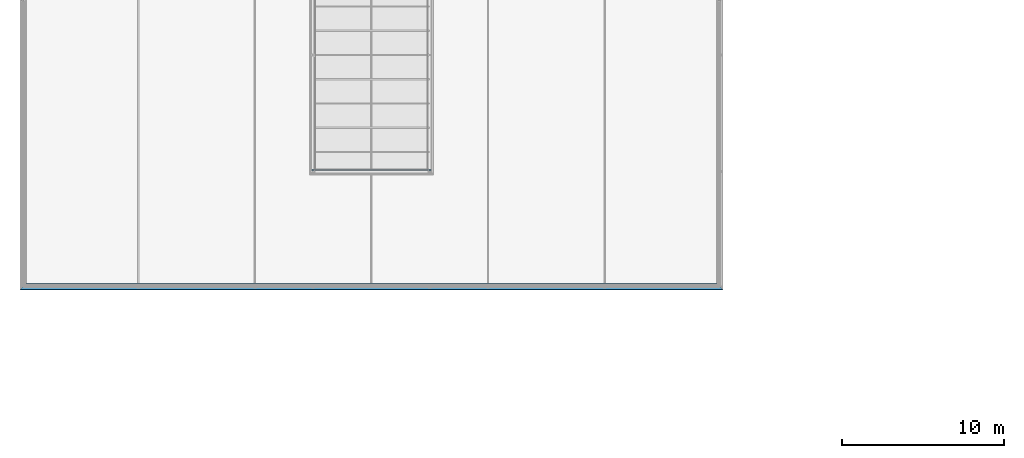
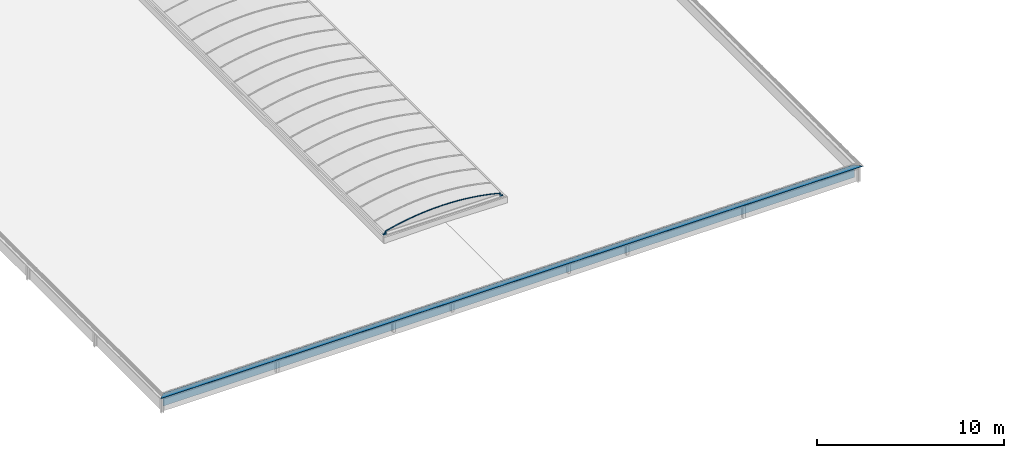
# One storey, part 31 of 81: 2 beams.
"""IFC2X3 building model written with IfcOpenShell, lengths in millimetres."""

from ifc_helpers import new_model, entity, si_unit, converted_unit, derived_unit, money_unit, direction, frame, origin_with_axes, place, context, subcontext, project, spatial, faceted_brep, material, material_list, type_object, element, save


model = new_model("IFC2X3")

# Units and contexts
model_context = context("Model", 3, precision=0.01, world=origin_with_axes(), true_north=direction((0.0, 1.0)))
body_context = subcontext(model_context, "Body", "Model", "MODEL_VIEW")
ifc_project = project(units=[si_unit("LENGTHUNIT", "METRE", prefix="MILLI"), si_unit("AREAUNIT", "SQUARE_METRE"), si_unit("VOLUMEUNIT", "CUBIC_METRE"), converted_unit("PLANEANGLEUNIT", "DEGREE", entity("IfcPlaneAngleMeasure", 0.0174532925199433), si_unit("PLANEANGLEUNIT", "RADIAN"), dimensions=[0, 0, 0, 0, 0, 0, 0]), money_unit("EUR"), converted_unit("TIMEUNIT", "Year", entity("IfcTimeMeasure", 31557600.0), si_unit("TIMEUNIT", "SECOND"), dimensions=[0, 0, 1, 0, 0, 0, 0]), si_unit("MASSUNIT", "GRAM", prefix="KILO"), si_unit("THERMODYNAMICTEMPERATUREUNIT", "DEGREE_CELSIUS"), si_unit("LUMINOUSINTENSITYUNIT", "LUMEN"), si_unit("ENERGYUNIT", "JOULE", prefix="MEGA"), derived_unit("THERMALCONDUCTANCEUNIT", [(si_unit("POWERUNIT", "WATT"), 1), (si_unit("LENGTHUNIT", "METRE"), -1), (si_unit("THERMODYNAMICTEMPERATUREUNIT", "KELVIN"), -1)]), derived_unit("SPECIFICHEATCAPACITYUNIT", [(si_unit("ENERGYUNIT", "JOULE"), 1), (si_unit("MASSUNIT", "GRAM", prefix="KILO"), -1), (si_unit("THERMODYNAMICTEMPERATUREUNIT", "KELVIN"), -1)]), derived_unit("MASSDENSITYUNIT", [(si_unit("MASSUNIT", "GRAM", prefix="KILO"), 1), (si_unit("VOLUMEUNIT", "CUBIC_METRE"), -1)])], contexts=[model_context])

# Site, building, storey
site_placement = place(None, origin_with_axes())
site = spatial("IfcSite", under=ifc_project, at=site_placement, Name="Site", CompositionType="ELEMENT")
building_placement = place(site_placement, origin_with_axes())
building = spatial("IfcBuilding", under=site, at=building_placement, Name="Naam gebouw", CompositionType="ELEMENT")
storey_placement = place(building_placement, frame((0.0, 0.0, 15320.0), z_axis=(0.0, 0.0, 1.0), x_axis=(1.0, 0.0, 0.0)))
storey = spatial("IfcBuildingStorey", under=building, at=storey_placement, Name="01 dak", CompositionType="ELEMENT", Elevation=15320.0)

# Beams
ifc_material_1 = material(Name="Membraan - dampdicht")
ifc_material_2 = material(Name="Metaal - Titanium zink")
ifc_material_list_1 = material_list([ifc_material_1, ifc_material_2])
beam_type_1 = type_object("IfcBeamType", Name="Muurafdekker_210 394 x 841", PredefinedType="BEAM")
beam_1_placement = place(storey_placement, frame((68500.00000000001, 30000.0, 645.0108944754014), z_axis=(0.0, 0.0, 1.0), x_axis=(0.0, 1.0, 0.0)))
element("IfcBeam", 1, at=beam_1_placement, inside=storey, type_object=beam_type_1, material=ifc_material_list_1, Name="dakkap", ObjectType="BEAM", context=body_context, shape_type="Brep", body=[
    faceted_brep([(252.0000000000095, 42948.00000000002, 7.21089447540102), (252.0000000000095, 42948.00000000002, -806.4411900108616), (252.0000000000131, 252.0000000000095, -806.4411900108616), (252.0000000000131, 252.0000000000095, 7.21089447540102), (254.0000000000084, 42946.00000000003, 7.21089447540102), (254.0000000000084, 42946.00000000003, -806.4411900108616), (254.000000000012, 254.0000000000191, -806.4411900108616), (254.000000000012, 254.0000000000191, 7.21089447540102)], [[[0, 1, 2, 3]], [[0, 4, 5, 1]], [[1, 5, 6, 2]], [[3, 2, 6, 7]], [[4, 0, 3, 7]], [[5, 4, 7, 6]]]),
    faceted_brep([(-105.0000000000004, -105.000000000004, 7.30000000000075), (-105.0000000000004, 43305.00000000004, 7.30000000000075), (-104.2673779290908, 43304.26737792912, 5.531844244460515), (-104.2673779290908, -104.2673779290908, 5.531844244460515), (-105.0000000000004, -105.000000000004, 32.31089447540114), (-105.0000000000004, 43305.00000000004, 32.31089447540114), (-104.3675626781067, 43304.36756267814, 33.97288413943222), (-102.7902322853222, 43302.79023228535, 34.79399036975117), (-101.066058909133, 43301.06605890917, 34.35877458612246), (-79.99022734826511, 43279.99022734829, 19.60131845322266), (-79.70672514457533, 43279.70672514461, 19.5109160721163), (270.2494811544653, 42929.75051884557, 17.21089447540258), (271.683422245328, 42928.3165777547, 16.75877458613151), (272.5987127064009, 42927.40128729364, 15.56594483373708), (288.3554032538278, 42911.6445967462, -27.72520665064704), (288.2719411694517, 42911.72805883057, -29.63680266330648), (286.8612220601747, 42913.13877793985, -30.92948856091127), (275.1150643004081, 42924.88493569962, -35.20474035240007), (274.4310240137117, 42925.56897598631, -33.32535511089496), (286.1771817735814, 42913.82281822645, -29.05010331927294), (286.4593255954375, 42913.54067440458, -28.79156613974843), (286.476018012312, 42913.52398198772, -28.40924693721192), (270.7193274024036, 42929.28067259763, 14.88190471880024), (270.5376117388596, 42929.46238826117, 15.11952092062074), (270.2527665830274, 42929.747233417, 15.21087341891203), (-79.70343913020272, 43279.70343913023, 17.51089447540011), (-81.13738022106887, 43281.13738022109, 17.96301436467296), (-102.2132117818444, 43302.21321178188, 32.72047049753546), (-102.558046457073, 43302.55804645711, 32.80751365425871), (-102.8735125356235, 43302.87351253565, 32.64329240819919), (-102.999999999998, 43303.00000000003, 32.31089447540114), (-102.999999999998, 43303.00000000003, 7.30000000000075), (-102.8534839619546, 43302.85348396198, 6.946377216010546), (-102.4998036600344, 43302.49980366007, 6.800000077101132), (-50.00000000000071, 43250.00000000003, 6.823967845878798), (-50.00000000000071, 43250.00000000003, -13.1803899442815), (-52.00000000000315, 43252.00000000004, -13.1803899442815), (-52.00000000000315, 43252.00000000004, 4.822224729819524), (-102.498899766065, 43302.49889976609, 4.800000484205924), (-102.498899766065, -102.4988997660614, 4.800000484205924), (-51.9999999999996, -52.00000000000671, 4.822224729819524), (-51.9999999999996, -52.00000000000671, -13.1803899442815), (-50.00000000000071, -49.99999999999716, -13.1803899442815), (-50.00000000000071, -49.99999999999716, 6.823967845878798), (-102.4998036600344, -102.499803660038, 6.800000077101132), (-102.8534839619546, -102.853483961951, 6.946377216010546), (-102.999999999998, -102.9999999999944, 7.30000000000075), (-102.999999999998, -102.9999999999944, 32.31089447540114), (-102.8735125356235, -102.8735125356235, 32.64329240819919), (-102.558046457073, -102.5580464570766, 32.80751365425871), (-102.2132117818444, -102.2132117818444, 32.72047049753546), (-81.13738022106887, -81.13738022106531, 17.96301436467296), (-79.70343913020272, -79.70343913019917, 17.51089447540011), (270.2527665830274, 270.2527665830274, 15.21087341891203), (270.5376117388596, 270.5376117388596, 15.11952092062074), (270.7193274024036, 270.7193274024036, 14.88190471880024), (286.4760180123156, 286.4760180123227, -28.40924693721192), (286.4593255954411, 286.4593255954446, -28.79156613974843), (286.1771817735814, 286.1771817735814, -29.05010331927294), (274.4310240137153, 274.4310240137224, -33.32535511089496), (275.1150643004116, 275.1150643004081, -35.20474035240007), (286.8612220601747, 286.8612220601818, -30.92948856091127), (288.2719411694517, 288.2719411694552, -29.63680266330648), (288.3554032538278, 288.3554032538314, -27.72520665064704), (272.5987127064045, 272.5987127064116, 15.56594483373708), (271.683422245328, 271.6834222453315, 16.75877458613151), (270.2494811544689, 270.2494811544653, 17.21089447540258), (-79.70672514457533, -79.70672514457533, 19.5109160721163), (-79.99022734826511, -79.99022734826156, 19.60131845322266), (-101.066058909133, -101.0660589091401, 34.35877458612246), (-102.7902322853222, -102.7902322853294, 34.79399036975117), (-104.3675626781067, -104.3675626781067, 33.97288413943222)], [[[0, 1, 2, 3]], [[4, 5, 1, 0]], [[2, 1, 5, 6, 7, 8, 9, 10, 11, 12, 13, 14, 15, 16, 17, 18, 19, 20, 21, 22, 23, 24, 25, 26, 27, 28, 29, 30, 31, 32, 33, 34, 35, 36, 37, 38]], [[3, 2, 38, 39]], [[4, 0, 3, 39, 40, 41, 42, 43, 44, 45, 46, 47, 48, 49, 50, 51, 52, 53, 54, 55, 56, 57, 58, 59, 60, 61, 62, 63, 64, 65, 66, 67, 68, 69, 70, 71]], [[71, 6, 5, 4]], [[70, 7, 6, 71]], [[69, 8, 7, 70]], [[68, 9, 8, 69]], [[67, 10, 9, 68]], [[66, 11, 10, 67]], [[65, 12, 11, 66]], [[64, 13, 12, 65]], [[63, 14, 13, 64]], [[62, 15, 14, 63]], [[61, 16, 15, 62]], [[60, 17, 16, 61]], [[59, 18, 17, 60]], [[58, 19, 18, 59]], [[57, 20, 19, 58]], [[56, 21, 20, 57]], [[55, 22, 21, 56]], [[54, 23, 22, 55]], [[53, 24, 23, 54]], [[52, 25, 24, 53]], [[51, 26, 25, 52]], [[50, 27, 26, 51]], [[49, 28, 27, 50]], [[48, 29, 28, 49]], [[47, 30, 29, 48]], [[46, 31, 30, 47]], [[45, 32, 31, 46]], [[44, 33, 32, 45]], [[43, 34, 33, 44]], [[42, 35, 34, 43]], [[41, 36, 35, 42]], [[40, 37, 36, 41]], [[39, 38, 37, 40]]]),
])
ifc_material_3 = material(Name="Metaal - Aluminium AFW")
ifc_material_4 = material(Name="Hout - Dak")
ifc_material_list_2 = material_list([ifc_material_3, ifc_material_3, ifc_material_3, ifc_material_3, ifc_material_3, ifc_material_3, ifc_material_3, ifc_material_3, ifc_material_4, ifc_material_4, ifc_material_4, ifc_material_4, ifc_material_4, ifc_material_4])
beam_type_2 = type_object("IfcBeamType", Name="lichtstraat polycarbonaat (constructie) 7420 x 670", PredefinedType="BEAM")
beam_2_placement = place(storey_placement, frame((46900.0, 37337.49999999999, 559.9999999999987), z_axis=(0.0, 0.0, 1.0), x_axis=(-1.0, 0.0, 0.0)))
element("IfcBeam", 2, at=beam_2_placement, inside=storey, type_object=beam_type_2, material=ifc_material_list_2, Name="Plafondafwerking 3", ObjectType="BEAM", context=body_context, shape_type="Brep", body=[
    faceted_brep([(3625.153752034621, 0.0, 58.00000032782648), (3627.224816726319, 0.0, 62.99999938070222), (3627.224816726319, 75.00000000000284, 62.99999938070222), (3625.153752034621, 75.00000000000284, 58.00000032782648), (3710.000000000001, 0.0, 58.00000032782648), (3710.000000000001, 0.0, 62.99999938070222), (3710.000000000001, 75.00000000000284, 62.99999938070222), (3710.000000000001, 75.00000000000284, 58.00000032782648)], [[[0, 1, 2, 3]], [[4, 5, 1, 0]], [[1, 5, 6, 2]], [[7, 3, 2, 6]], [[4, 0, 3, 7]], [[5, 4, 7, 6]]]),
    faceted_brep([(3527.999999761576, 0.0, 155.1537485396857), (3527.999999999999, 0.0, 184.0000000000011), (3527.999999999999, 75.00000000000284, 184.0000000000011), (3527.999999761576, 75.00000000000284, 155.1537485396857), (3532.999999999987, 0.0, 192.1385480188), (3527.999999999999, 0.0, 193.4415530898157), (3532.999997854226, 0.0, 157.2248178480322), (3527.999999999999, 75.00000000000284, 193.4415530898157), (3532.999997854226, 75.00000000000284, 157.2248178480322), (3532.999999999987, 75.00000000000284, 192.1385480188)], [[[0, 1, 2, 3]], [[4, 5, 1, 0, 6]], [[1, 5, 7, 2]], [[8, 3, 2, 7, 9]], [[6, 0, 3, 8]], [[5, 4, 9, 7]], [[4, 6, 8, 9]]]),
    faceted_brep([(3625.153750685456, 0.0, 58.00000035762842), (3527.999999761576, 0.0, 155.1537485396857), (3527.999999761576, 75.00000000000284, 155.1537485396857), (3625.153750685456, 75.00000000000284, 58.00000035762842), (3627.224817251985, 0.0, 62.99999845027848), (3532.999997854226, 0.0, 157.2248178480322), (3532.999997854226, 75.00000000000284, 157.2248178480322), (3627.224817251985, 75.00000000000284, 62.99999845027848)], [[[0, 1, 2, 3]], [[4, 5, 1, 0]], [[1, 5, 6, 2]], [[7, 3, 2, 6]], [[4, 0, 3, 7]], [[5, 4, 7, 6]]]),
    faceted_brep([(-3710.000000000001, 0.0, 58.00000032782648), (-3710.000000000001, 0.0, 62.99999939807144), (-3710.000000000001, 75.00000000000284, 62.99999939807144), (-3710.000000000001, 75.00000000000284, 58.00000032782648), (-3625.153749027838, 0.0, 58.00000032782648), (-3627.224816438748, 0.0, 62.99999939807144), (-3627.224816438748, 75.00000000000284, 62.99999939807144), (-3625.153749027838, 75.00000000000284, 58.00000032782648)], [[[0, 1, 2, 3]], [[4, 5, 1, 0]], [[1, 5, 6, 2]], [[7, 3, 2, 6]], [[4, 0, 3, 7]], [[5, 4, 7, 6]]]),
    faceted_brep([(-3528.000000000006, 0.0, 155.1537497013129), (-3533.000000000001, 0.0, 157.2248175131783), (-3533.000000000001, 75.00000000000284, 157.2248175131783), (-3528.000000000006, 75.00000000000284, 155.1537497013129), (-3528.000000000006, 0.0, 193.4415530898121), (-3533.000000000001, 0.0, 192.1385480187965), (-3527.999999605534, 0.0, 184.0000003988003), (-3533.000000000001, 75.00000000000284, 192.1385480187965), (-3527.999999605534, 75.00000000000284, 184.0000003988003), (-3528.000000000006, 75.00000000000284, 193.4415530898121)], [[[0, 1, 2, 3]], [[4, 5, 1, 0, 6]], [[1, 5, 7, 2]], [[8, 3, 2, 7, 9]], [[6, 0, 3, 8]], [[5, 4, 9, 7]], [[4, 6, 8, 9]]]),
    faceted_brep([(-3627.224816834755, 0.0, 62.99999858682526), (-3532.999999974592, 0.0, 157.2248181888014), (-3532.999999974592, 75.00000000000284, 157.2248181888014), (-3627.224816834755, 75.00000000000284, 62.99999858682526), (-3625.153750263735, 0.0, 58.00000048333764), (-3527.999999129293, 0.0, 155.1537488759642), (-3527.999999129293, 75.00000000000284, 155.1537488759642), (-3625.153750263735, 75.00000000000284, 58.00000048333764)], [[[0, 1, 2, 3]], [[4, 5, 1, 0]], [[1, 5, 6, 2]], [[7, 3, 2, 6]], [[4, 0, 3, 7]], [[5, 4, 7, 6]]]),
    faceted_brep([(3584.237010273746, 75.00000000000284, 183.6724462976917), (3264.746952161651, 75.00000000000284, 264.2761146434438), (3264.746952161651, 0.0, 264.2761146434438), (3584.237010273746, 0.0, 183.6724462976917), (2296.138887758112, 75.00000000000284, 460.6819250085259), (2620.519461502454, 75.00000000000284, 402.8192257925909), (2943.448443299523, 75.00000000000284, 337.3385317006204), (3582.999999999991, 75.00000000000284, 179.000000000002), (3532.999999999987, 75.00000000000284, 192.1385480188), (3527.999999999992, 75.00000000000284, 193.4415530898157), (3213.322878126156, 75.00000000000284, 271.5053933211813), (2896.922437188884, 75.00000000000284, 342.2614189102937), (2578.96836412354, 75.00000000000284, 405.671683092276), (2259.631179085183, 75.00000000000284, 461.7021786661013), (1939.082143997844, 75.00000000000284, 510.3228562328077), (1617.493170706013, 75.00000000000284, 551.5076403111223), (1295.036728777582, 75.00000000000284, 585.2344433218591), (971.8857530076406, 75.00000000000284, 611.4851774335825), (648.2135506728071, 75.00000000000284, 630.2457642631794), (324.1937085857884, 75.00000000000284, 641.5061424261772), (0.0, 75.00000000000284, 645.2602729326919), (-324.1937085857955, 75.00000000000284, 641.5061424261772), (-648.2135506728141, 75.00000000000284, 630.2457642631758), (-971.8857530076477, 75.00000000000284, 611.4851774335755), (-1295.036728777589, 75.00000000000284, 585.2344433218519), (-1617.49317070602, 75.00000000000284, 551.5076403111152), (-1939.082143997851, 75.00000000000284, 510.3228562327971), (-2259.63117908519, 75.00000000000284, 461.7021786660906), (-2578.968364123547, 75.00000000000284, 405.6716830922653), (-2896.922437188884, 75.00000000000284, 342.2614189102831), (-3213.322878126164, 75.00000000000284, 271.5053933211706), (-3528.000000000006, 75.00000000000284, 193.4415530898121), (-3528.000000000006, 75.00000000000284, 194.0000000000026), (-3533.000000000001, 75.00000000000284, 194.0000000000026), (-3533.000000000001, 75.00000000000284, 192.1385480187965), (-3582.999999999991, 75.00000000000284, 179.000000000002), (-3584.237010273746, 75.00000000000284, 183.6724462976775), (-3264.746952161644, 75.00000000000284, 264.2761146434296), (-2943.448443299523, 75.00000000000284, 337.3385317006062), (-2620.519461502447, 75.00000000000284, 402.8192257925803), (-2296.138887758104, 75.00000000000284, 460.6819250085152), (-1970.486407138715, 75.00000000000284, 510.8945772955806), (-1643.742409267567, 75.00000000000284, 553.4293682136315), (-1316.087888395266, 75.00000000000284, 588.2627363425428), (-987.7043431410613, 75.00000000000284, 615.3753863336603), (-658.7736759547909, 75.00000000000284, 634.7522995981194), (-329.4780923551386, 75.00000000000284, 646.3827426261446), (0.0, 75.00000000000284, 650.2602729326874), (329.4780923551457, 75.00000000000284, 646.3827426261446), (658.7736759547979, 75.00000000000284, 634.7522995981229), (987.7043431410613, 75.00000000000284, 615.375386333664), (1316.087888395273, 75.00000000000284, 588.2627363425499), (1643.742409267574, 75.00000000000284, 553.4293682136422), (1970.486407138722, 75.00000000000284, 510.8945772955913), (2943.448443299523, 0.0, 337.3385317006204), (3213.322878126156, 0.0, 271.5053933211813), (3527.999999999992, 0.0, 193.4415530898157), (3532.999999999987, 0.0, 192.1385480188), (3582.999999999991, 0.0, 179.000000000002), (2620.519461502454, 0.0, 402.8192257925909), (2296.138887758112, 0.0, 460.6819250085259), (1970.486407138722, 0.0, 510.8945772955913), (1643.742409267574, 0.0, 553.4293682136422), (1316.087888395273, 0.0, 588.2627363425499), (987.7043431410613, 0.0, 615.375386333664), (658.7736759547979, 0.0, 634.7522995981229), (329.4780923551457, 0.0, 646.3827426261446), (0.0, 0.0, 650.2602729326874), (-329.4780923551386, 0.0, 646.3827426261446), (-658.7736759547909, 0.0, 634.7522995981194), (-987.7043431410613, 0.0, 615.3753863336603), (-1316.087888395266, 0.0, 588.2627363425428), (-1643.742409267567, 0.0, 553.4293682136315), (-1970.486407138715, 0.0, 510.8945772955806), (-2296.138887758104, 0.0, 460.6819250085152), (-2620.519461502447, 0.0, 402.8192257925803), (-2943.448443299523, 0.0, 337.3385317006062), (-3264.746952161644, 0.0, 264.2761146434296), (-3584.237010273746, 0.0, 183.6724462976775), (-3582.999999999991, 0.0, 179.000000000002), (-3533.000000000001, 0.0, 192.1385480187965), (-3533.000000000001, 0.0, 194.0000000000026), (-3528.000000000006, 0.0, 194.0000000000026), (-3528.000000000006, 0.0, 193.4415530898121), (-3213.322878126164, 0.0, 271.5053933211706), (-2896.922437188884, 0.0, 342.2614189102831), (-2578.968364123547, 0.0, 405.6716830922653), (-2259.63117908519, 0.0, 461.7021786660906), (-1939.082143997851, 0.0, 510.3228562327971), (-1617.49317070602, 0.0, 551.5076403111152), (-1295.036728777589, 0.0, 585.2344433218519), (-971.8857530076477, 0.0, 611.4851774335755), (-648.2135506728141, 0.0, 630.2457642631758), (-324.1937085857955, 0.0, 641.5061424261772), (0.0, 0.0, 645.2602729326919), (324.1937085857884, 0.0, 641.5061424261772), (648.2135506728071, 0.0, 630.2457642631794), (971.8857530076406, 0.0, 611.4851774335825), (1295.036728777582, 0.0, 585.2344433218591), (1617.493170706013, 0.0, 551.5076403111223), (1939.082143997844, 0.0, 510.3228562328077), (2259.631179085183, 0.0, 461.7021786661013), (2578.96836412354, 0.0, 405.671683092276), (2896.922437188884, 0.0, 342.2614189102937)], [[[0, 1, 2, 3]], [[4, 5, 6, 1, 0, 7, 8, 9, 10, 11, 12, 13, 14, 15, 16, 17, 18, 19, 20, 21, 22, 23, 24, 25, 26, 27, 28, 29, 30, 31, 32, 33, 34, 35, 36, 37, 38, 39, 40, 41, 42, 43, 44, 45, 46, 47, 48, 49, 50, 51, 52, 53]], [[1, 6, 54, 2]], [[55, 56, 57, 58, 3, 2, 54, 59, 60, 61, 62, 63, 64, 65, 66, 67, 68, 69, 70, 71, 72, 73, 74, 75, 76, 77, 78, 79, 80, 81, 82, 83, 84, 85, 86, 87, 88, 89, 90, 91, 92, 93, 94, 95, 96, 97, 98, 99, 100, 101, 102, 103]], [[7, 0, 3, 58]], [[5, 4, 60, 59]], [[6, 5, 59, 54]], [[8, 7, 58, 57]], [[9, 8, 57, 56]], [[10, 9, 56, 55]], [[11, 10, 55, 103]], [[12, 11, 103, 102]], [[13, 12, 102, 101]], [[14, 13, 101, 100]], [[15, 14, 100, 99]], [[16, 15, 99, 98]], [[17, 16, 98, 97]], [[18, 17, 97, 96]], [[19, 18, 96, 95]], [[20, 19, 95, 94]], [[21, 20, 94, 93]], [[22, 21, 93, 92]], [[23, 22, 92, 91]], [[24, 23, 91, 90]], [[25, 24, 90, 89]], [[26, 25, 89, 88]], [[27, 26, 88, 87]], [[28, 27, 87, 86]], [[29, 28, 86, 85]], [[30, 29, 85, 84]], [[31, 30, 84, 83]], [[32, 31, 83, 82]], [[33, 32, 82, 81]], [[34, 33, 81, 80]], [[35, 34, 80, 79]], [[36, 35, 79, 78]], [[37, 36, 78, 77]], [[38, 37, 77, 76]], [[39, 38, 76, 75]], [[40, 39, 75, 74]], [[41, 40, 74, 73]], [[42, 41, 73, 72]], [[43, 42, 72, 71]], [[44, 43, 71, 70]], [[45, 44, 70, 69]], [[46, 45, 69, 68]], [[47, 46, 68, 67]], [[48, 47, 67, 66]], [[49, 48, 66, 65]], [[50, 49, 65, 64]], [[51, 50, 64, 63]], [[52, 51, 63, 62]], [[53, 52, 62, 61]], [[4, 53, 61, 60]]]),
    faceted_brep([(-3589.18475202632, 75.00000000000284, 202.3611008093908), (-3587.947861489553, 75.00000000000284, 197.6891067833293), (-3587.947861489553, 0.0, 197.6891067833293), (-3589.18475202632, 0.0, 202.3611008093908), (-3269.271727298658, 75.00000000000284, 283.190243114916), (-2947.542627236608, 75.00000000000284, 356.4574241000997), (-2624.176171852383, 75.00000000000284, 422.121943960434), (-2299.351990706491, 75.00000000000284, 480.1473261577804), (-1973.250523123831, 75.00000000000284, 530.5013376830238), (-1646.052917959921, 75.00000000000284, 573.1560069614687), (-1317.940932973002, 75.00000000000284, 608.0876393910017), (-989.0968338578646, 75.00000000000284, 635.2768305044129), (-659.7032929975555, 75.00000000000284, 654.7084767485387), (-329.9432879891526, 75.00000000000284, 666.3717838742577), (0.0, 75.00000000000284, 670.2602729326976), (329.9432879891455, 75.00000000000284, 666.3717838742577), (659.7032929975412, 75.00000000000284, 654.7084767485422), (989.0968338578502, 75.00000000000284, 635.2768305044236), (1317.940932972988, 75.00000000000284, 608.087639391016), (1646.052917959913, 75.00000000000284, 573.156006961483), (1973.250523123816, 75.00000000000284, 530.5013376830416), (2299.351990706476, 75.00000000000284, 480.1473261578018), (2624.176171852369, 75.00000000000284, 422.1219439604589), (2947.542627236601, 75.00000000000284, 356.4574241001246), (3269.271727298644, 75.00000000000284, 283.1902431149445), (3589.184752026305, 75.00000000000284, 202.3611008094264), (3587.947861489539, 75.00000000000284, 197.6891067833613), (3533.000000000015, 75.00000000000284, 212.1385480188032), (3528.00000000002, 75.00000000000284, 213.4415530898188), (3213.322878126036, 75.00000000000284, 291.5053933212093), (2896.922437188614, 75.00000000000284, 362.2614189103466), (2578.968364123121, 75.00000000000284, 425.6716830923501), (2259.631179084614, 75.00000000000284, 481.7021786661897), (1939.082143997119, 75.00000000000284, 530.3228562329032), (1617.493170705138, 75.00000000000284, 571.5076403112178), (1295.036728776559, 75.00000000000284, 605.234443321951), (971.8857530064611, 75.00000000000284, 631.4851774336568), (648.2135506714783, 75.00000000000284, 650.2457642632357), (324.1937085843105, 75.00000000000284, 661.5061424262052), (-1.63424829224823e-09, 75.00000000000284, 665.2602729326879), (-324.193708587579, 75.00000000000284, 661.5061424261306), (-648.2135506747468, 75.00000000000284, 650.2457642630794), (-971.8857530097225, 75.00000000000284, 631.4851774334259), (-1295.036728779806, 75.00000000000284, 605.234443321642), (-1617.493170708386, 75.00000000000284, 571.5076403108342), (-1939.082144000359, 75.00000000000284, 530.3228562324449), (-2259.631179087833, 75.00000000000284, 481.7021786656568), (-2578.968364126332, 75.00000000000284, 425.6716830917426), (-2896.922437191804, 75.00000000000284, 362.2614189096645), (-3213.322878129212, 75.00000000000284, 291.505393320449), (-3528.000000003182, 75.00000000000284, 213.4415530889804), (-3528.000000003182, 0.0, 213.4415530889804), (-3213.322878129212, 0.0, 291.505393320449), (-2896.922437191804, 0.0, 362.2614189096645), (-2578.968364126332, 0.0, 425.6716830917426), (-2259.631179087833, 0.0, 481.7021786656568), (-1939.082144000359, 0.0, 530.3228562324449), (-1617.493170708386, 0.0, 571.5076403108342), (-1295.036728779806, 0.0, 605.234443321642), (-971.8857530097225, 0.0, 631.4851774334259), (-648.2135506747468, 0.0, 650.2457642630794), (-324.193708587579, 0.0, 661.5061424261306), (-1.63424829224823e-09, 0.0, 665.2602729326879), (324.1937085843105, 0.0, 661.5061424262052), (648.2135506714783, 0.0, 650.2457642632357), (971.8857530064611, 0.0, 631.4851774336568), (1295.036728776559, 0.0, 605.234443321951), (1617.493170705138, 0.0, 571.5076403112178), (1939.082143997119, 0.0, 530.3228562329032), (2259.631179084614, 0.0, 481.7021786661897), (2578.968364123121, 0.0, 425.6716830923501), (2896.922437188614, 0.0, 362.2614189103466), (3213.322878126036, 0.0, 291.5053933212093), (3528.00000000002, 0.0, 213.4415530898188), (3533.000000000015, 0.0, 212.1385480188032), (3587.947861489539, 0.0, 197.6891067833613), (3589.184752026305, 0.0, 202.3611008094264), (3269.271727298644, 0.0, 283.1902431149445), (2947.542627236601, 0.0, 356.4574241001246), (2624.176171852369, 0.0, 422.1219439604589), (2299.351990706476, 0.0, 480.1473261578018), (1973.250523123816, 0.0, 530.5013376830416), (1646.052917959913, 0.0, 573.156006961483), (1317.940932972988, 0.0, 608.087639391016), (989.0968338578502, 0.0, 635.2768305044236), (659.7032929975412, 0.0, 654.7084767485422), (329.9432879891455, 0.0, 666.3717838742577), (0.0, 0.0, 670.2602729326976), (-329.9432879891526, 0.0, 666.3717838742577), (-659.7032929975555, 0.0, 654.7084767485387), (-989.0968338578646, 0.0, 635.2768305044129), (-1317.940932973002, 0.0, 608.0876393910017), (-1646.052917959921, 0.0, 573.1560069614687), (-1973.250523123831, 0.0, 530.5013376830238), (-2299.351990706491, 0.0, 480.1473261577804), (-2624.176171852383, 0.0, 422.121943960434), (-2947.542627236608, 0.0, 356.4574241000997), (-3269.271727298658, 0.0, 283.190243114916)], [[[0, 1, 2, 3]], [[0, 4, 5, 6, 7, 8, 9, 10, 11, 12, 13, 14, 15, 16, 17, 18, 19, 20, 21, 22, 23, 24, 25, 26, 27, 28, 29, 30, 31, 32, 33, 34, 35, 36, 37, 38, 39, 40, 41, 42, 43, 44, 45, 46, 47, 48, 49, 50, 1]], [[1, 50, 51, 2]], [[3, 2, 51, 52, 53, 54, 55, 56, 57, 58, 59, 60, 61, 62, 63, 64, 65, 66, 67, 68, 69, 70, 71, 72, 73, 74, 75, 76, 77, 78, 79, 80, 81, 82, 83, 84, 85, 86, 87, 88, 89, 90, 91, 92, 93, 94, 95, 96, 97]], [[4, 0, 3, 97]], [[5, 4, 97, 96]], [[6, 5, 96, 95]], [[7, 6, 95, 94]], [[8, 7, 94, 93]], [[9, 8, 93, 92]], [[10, 9, 92, 91]], [[11, 10, 91, 90]], [[12, 11, 90, 89]], [[13, 12, 89, 88]], [[14, 13, 88, 87]], [[15, 14, 87, 86]], [[16, 15, 86, 85]], [[17, 16, 85, 84]], [[18, 17, 84, 83]], [[19, 18, 83, 82]], [[20, 19, 82, 81]], [[21, 20, 81, 80]], [[22, 21, 80, 79]], [[23, 22, 79, 78]], [[24, 23, 78, 77]], [[25, 24, 77, 76]], [[26, 25, 76, 75]], [[27, 26, 75, 74]], [[28, 27, 74, 73]], [[29, 28, 73, 72]], [[30, 29, 72, 71]], [[31, 30, 71, 70]], [[32, 31, 70, 69]], [[33, 32, 69, 68]], [[34, 33, 68, 67]], [[35, 34, 67, 66]], [[36, 35, 66, 65]], [[37, 36, 65, 64]], [[38, 37, 64, 63]], [[39, 38, 63, 62]], [[40, 39, 62, 61]], [[41, 40, 61, 60]], [[42, 41, 60, 59]], [[43, 42, 59, 58]], [[44, 43, 58, 57]], [[45, 44, 57, 56]], [[46, 45, 56, 55]], [[47, 46, 55, 54]], [[48, 47, 54, 53]], [[49, 48, 53, 52]], [[50, 49, 52, 51]]]),
    faceted_brep([(3489.999999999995, 0.0, 0.0), (3489.999999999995, 0.0, 184.0000000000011), (3489.999999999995, 75.00000000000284, 184.0000000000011), (3489.999999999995, 75.00000000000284, 0.0), (3527.999999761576, 0.0, 155.1537485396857), (3527.999999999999, 0.0, 184.0000000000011), (3527.999999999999, 0.0, 0.0), (3527.999999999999, 0.0, 128.0000000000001), (3527.999999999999, 75.00000000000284, 184.0000000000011), (3527.999999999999, 75.00000000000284, 0.0), (3527.999999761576, 75.00000000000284, 155.1537485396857), (3527.999999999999, 75.00000000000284, 128.0000000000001)], [[[0, 1, 2, 3]], [[4, 5, 1, 0, 6, 7]], [[1, 5, 8, 2]], [[9, 3, 2, 8, 10, 11]], [[6, 0, 3, 9]], [[5, 4, 10, 8]], [[7, 6, 9, 11]], [[4, 7, 11, 10]]]),
    faceted_brep([(3598.000000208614, 0.0, 58.00000032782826), (3598.000000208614, 75.00000000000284, 58.00000032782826), (3527.999999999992, 75.00000000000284, 58.00000032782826), (3527.999999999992, 0.0, 58.00000032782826), (3625.153752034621, 0.0, 58.00000032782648), (3625.153752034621, 75.00000000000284, 58.00000032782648), (3710.000000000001, 75.00000000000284, 58.00000032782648), (3710.000000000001, 75.00000000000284, 0.0), (3527.999999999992, 75.00000000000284, 0.0), (3527.999999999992, 0.0, 0.0), (3710.000000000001, 0.0, 0.0), (3710.000000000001, 0.0, 58.00000032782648)], [[[0, 1, 2, 3]], [[4, 5, 1, 0]], [[2, 1, 5, 6, 7, 8]], [[3, 2, 8, 9]], [[4, 0, 3, 9, 10, 11]], [[11, 6, 5, 4]], [[10, 7, 6, 11]], [[9, 8, 7, 10]]]),
    faceted_brep([(3527.999999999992, 0.0, 57.99999999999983), (3527.999999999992, 75.00000000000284, 57.99999999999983), (3597.999999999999, 75.00000000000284, 57.99999999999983), (3597.999999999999, 0.0, 57.99999999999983), (3527.999999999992, 0.0, 128.0000000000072), (3527.999999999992, 75.00000000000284, 128.0000000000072)], [[[0, 1, 2, 3]], [[4, 5, 1, 0]], [[2, 1, 5]], [[3, 2, 5, 4]], [[4, 0, 3]]]),
    faceted_brep([(-3528.000000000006, 0.0, 155.1537497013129), (-3527.999999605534, 0.0, 184.0000003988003), (-3527.999999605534, 75.00000000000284, 184.0000003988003), (-3528.000000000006, 75.00000000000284, 155.1537497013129), (-3489.999999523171, 0.0, 0.0), (-3489.999999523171, 0.0, 184.0000003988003), (-3527.999999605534, 0.0, 128.000000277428), (-3527.999999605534, 0.0, 0.0), (-3489.999999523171, 75.00000000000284, 184.0000003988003), (-3527.999999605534, 75.00000000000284, 128.000000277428), (-3489.999999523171, 75.00000000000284, 0.0), (-3527.999999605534, 75.00000000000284, 0.0)], [[[0, 1, 2, 3]], [[4, 5, 1, 0, 6, 7]], [[1, 5, 8, 2]], [[9, 3, 2, 8, 10, 11]], [[6, 0, 3, 9]], [[5, 4, 10, 8]], [[7, 6, 9, 11]], [[4, 7, 11, 10]]]),
    faceted_brep([(-3598.000000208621, 0.0, 58.00000032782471), (-3598.000000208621, 75.00000000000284, 58.00000032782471), (-3625.153749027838, 75.00000000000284, 58.00000032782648), (-3625.153749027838, 0.0, 58.00000032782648), (-3528.000000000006, 0.0, 58.00000032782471), (-3528.000000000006, 75.00000000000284, 58.00000032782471), (-3528.000000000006, 75.00000000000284, 0.0), (-3710.000000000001, 75.00000000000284, 0.0), (-3710.000000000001, 75.00000000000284, 58.00000032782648), (-3710.000000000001, 0.0, 58.00000032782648), (-3710.000000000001, 0.0, 0.0), (-3528.000000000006, 0.0, 0.0)], [[[0, 1, 2, 3]], [[4, 5, 1, 0]], [[2, 1, 5, 6, 7, 8]], [[3, 2, 8, 9]], [[4, 0, 3, 9, 10, 11]], [[11, 6, 5, 4]], [[10, 7, 6, 11]], [[9, 8, 7, 10]]]),
    faceted_brep([(-3528.000000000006, 0.0, 57.99999999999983), (-3528.000000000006, 75.00000000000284, 57.99999999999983), (-3528.000000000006, 75.00000000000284, 128.0000000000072), (-3528.000000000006, 0.0, 128.0000000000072), (-3598.000000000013, 0.0, 57.99999999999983), (-3598.000000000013, 75.00000000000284, 57.99999999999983)], [[[0, 1, 2, 3]], [[4, 5, 1, 0]], [[2, 1, 5]], [[3, 2, 5, 4]], [[4, 0, 3]]]),
])

save(model, "model.ifc")
